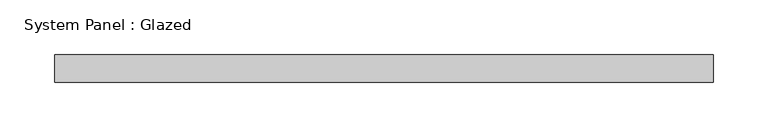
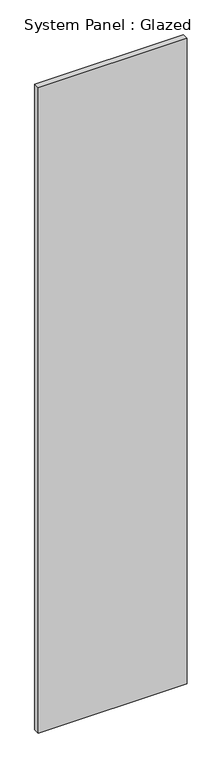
"""IFC4 building model written with IfcOpenShell, lengths in millimetres: plate geometry, System Panel : Glazed."""

from ifc_helpers import new_model, si_unit, origin, origin_with_axes, place, context, project, spatial, polyline, outline, extrude, source, transform, mapped, element, save


def system_panel_glazed_6ff5b55b(model_context):
    return source(origin(), model_context, "Body", "SweptSolid", [
        extrude(outline(polyline([(300.0, -49.5), (-300.0, -49.5), (-300.0, -24.5), (300.0, -24.5), (300.0, -49.5)])), origin_with_axes(), (0.0, 0.0, 1.0), 2750.0),
    ])


if __name__ == "__main__":
    model = new_model("IFC4")
    model_context = context("Model", 3, world=origin())
    ifc_project = project(units=[si_unit("LENGTHUNIT", "METRE", prefix="MILLI")], contexts=[model_context])
    site = spatial("IfcSite", under=ifc_project)
    building = spatial("IfcBuilding", under=site)
    placement = place(None, origin())
    system_panel_glazed_shape = system_panel_glazed_6ff5b55b(model_context)
    element("IfcPlate", 1, ObjectType="System Panel : Glazed", at=placement, inside=building, context=model_context, shape_type="MappedRepresentation", body=[
        mapped(system_panel_glazed_shape, transform((0.0, 0.0, 0.0), x_axis=(1.0, 0.0, 0.0), y_axis=(0.0, 1.0, 0.0), z_axis=(0.0, 0.0, 1.0))),
    ])
    save(model, "model.ifc")
